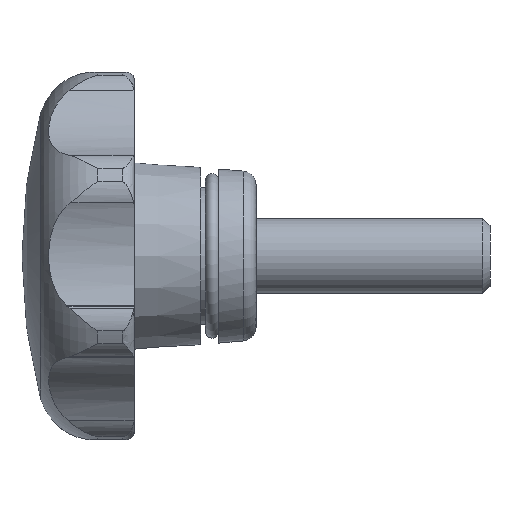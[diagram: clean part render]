
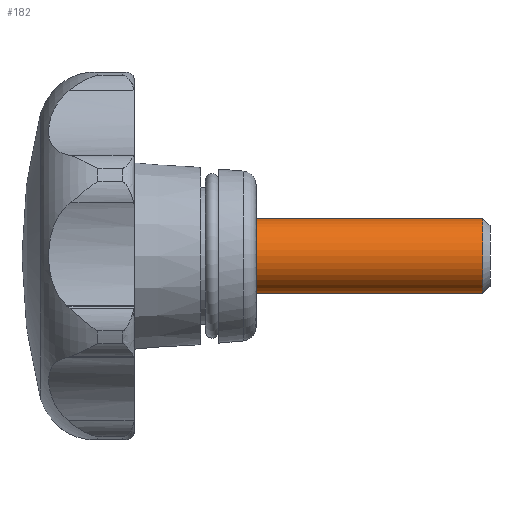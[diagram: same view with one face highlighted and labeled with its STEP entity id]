
A CAD part, left-side view. The second image highlights one B-rep face of the part: STEP entity #182.
In plain terms, the highlighted cylindrical face has radius 4 mm (diameter 8 mm), a full revolution.
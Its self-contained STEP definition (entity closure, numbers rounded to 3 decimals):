
#182 = ADVANCED_FACE( '', ( #364, #365 ), #366, .T. );
#364 = FACE_OUTER_BOUND( '', #729, .T. );
#365 = FACE_OUTER_BOUND( '', #730, .T. );
#366 = CYLINDRICAL_SURFACE( '', #731, 4. );
#729 = EDGE_LOOP( '', ( #1133 ) );
#730 = EDGE_LOOP( '', ( #1134 ) );
#731 = AXIS2_PLACEMENT_3D( '', #1135, #1136, #1137 );
#1133 = ORIENTED_EDGE( '', *, *, #2287, .F. );
#1134 = ORIENTED_EDGE( '', *, *, #2288, .T. );
#1135 = CARTESIAN_POINT( '', ( 0., -25., 0. ) );
#1136 = DIRECTION( '', ( 0., 1., 0. ) );
#1137 = DIRECTION( '', ( 0., 0., -1. ) );
#2287 = EDGE_CURVE( '', #2682, #2682, #2683, .T. );
#2288 = EDGE_CURVE( '', #2684, #2684, #2685, .T. );
#2682 = VERTEX_POINT( '', #3393 );
#2683 = CIRCLE( '', #3394, 4. );
#2684 = VERTEX_POINT( '', #3395 );
#2685 = CIRCLE( '', #3396, 4. );
#3393 = CARTESIAN_POINT( '', ( 0., -24.233, -4. ) );
#3394 = AXIS2_PLACEMENT_3D( '', #5058, #5059, #5060 );
#3395 = CARTESIAN_POINT( '', ( 0., 0., -4. ) );
#3396 = AXIS2_PLACEMENT_3D( '', #5061, #5062, #5063 );
#5058 = CARTESIAN_POINT( '', ( 0., -24.233, 0. ) );
#5059 = DIRECTION( '', ( 0., -1., 0. ) );
#5060 = DIRECTION( '', ( 0., 0., -1. ) );
#5061 = CARTESIAN_POINT( '', ( 0., 0., 0. ) );
#5062 = DIRECTION( '', ( 0., -1., 0. ) );
#5063 = DIRECTION( '', ( 0., 0., -1. ) );
